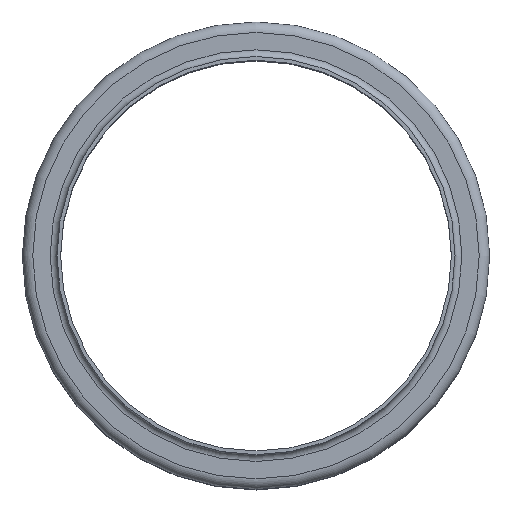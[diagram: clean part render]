
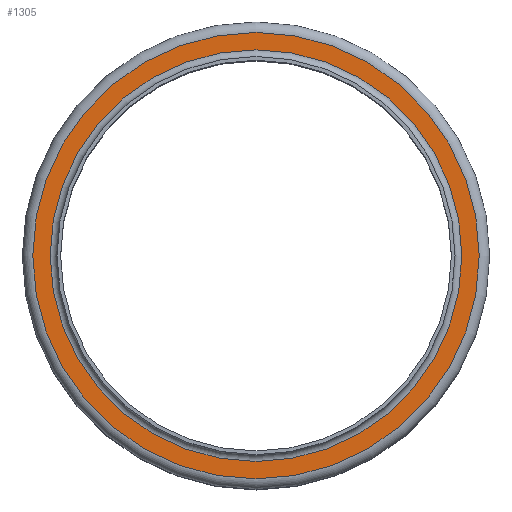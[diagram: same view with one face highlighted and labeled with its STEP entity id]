
A CAD part, top view. The second image highlights one B-rep face of the part: STEP entity #1305.
In plain terms, the highlighted planar face has unit normal (0, 0, 1).
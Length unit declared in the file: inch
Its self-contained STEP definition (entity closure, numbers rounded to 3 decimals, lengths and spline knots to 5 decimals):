
#130=FACE_BOUND('',#384,.T.);
#229=FACE_OUTER_BOUND('',#383,.T.);
#383=EDGE_LOOP('',(#1108));
#384=EDGE_LOOP('',(#1109));
#545=CIRCLE('',#1574,6.71625);
#546=CIRCLE('',#1576,7.28375);
#658=VERTEX_POINT('',#2470);
#659=VERTEX_POINT('',#2474);
#811=EDGE_CURVE('',#658,#658,#545,.T.);
#812=EDGE_CURVE('',#659,#659,#546,.T.);
#1108=ORIENTED_EDGE('',*,*,#812,.F.);
#1109=ORIENTED_EDGE('',*,*,#811,.T.);
#1206=PLANE('',#1575);
#1305=ADVANCED_FACE('',(#229,#130),#1206,.T.);
#1574=AXIS2_PLACEMENT_3D('',#2472,#2070,#2071);
#1575=AXIS2_PLACEMENT_3D('',#2473,#2072,#2073);
#1576=AXIS2_PLACEMENT_3D('',#2475,#2074,#2075);
#2070=DIRECTION('center_axis',(0.,0.,-1.));
#2071=DIRECTION('ref_axis',(1.,0.,0.));
#2072=DIRECTION('center_axis',(0.,0.,1.));
#2073=DIRECTION('ref_axis',(1.,0.,0.));
#2074=DIRECTION('center_axis',(0.,0.,-1.));
#2075=DIRECTION('ref_axis',(1.,0.,0.));
#2470=CARTESIAN_POINT('',(6.71625,0.,-0.22125));
#2472=CARTESIAN_POINT('Origin',(0.,0.,-0.22125));
#2473=CARTESIAN_POINT('Origin',(0.,7.28375,-0.22125));
#2474=CARTESIAN_POINT('',(7.28375,0.,-0.22125));
#2475=CARTESIAN_POINT('Origin',(0.,0.,-0.22125));
